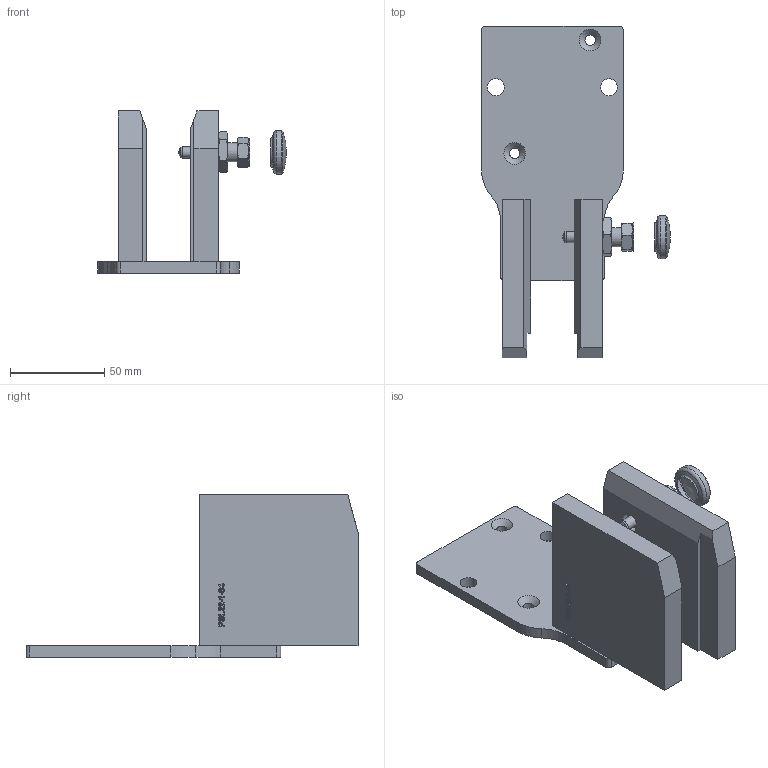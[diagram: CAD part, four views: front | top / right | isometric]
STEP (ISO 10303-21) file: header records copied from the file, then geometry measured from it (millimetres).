
FILE_DESCRIPTION(/* description */ (''),/* implementation_level */ '2;1');
FILE_NAME(/* name */ 'P:\Standard products\2. QDC Clamping Systems\10. PS - Parkstations\PSL22-1 (84)(09-12-20).stp',/* time_stamp */ '2020-12-09T15:08:32+01:00',/* author */ ('breep'),/* organization */ (''),/* preprocessor_version */ 'ST-DEVELOPER v17.2',/* originating_system */ 'Autodesk Inventor 2019',/* authorisation */ '');
FILE_SCHEMA (('AUTOMOTIVE_DESIGN { 1 0 10303 214 3 1 1 }'));
Length unit declared in the file: millimetre
Products named in the file (1): Part2
Bounding box: 100 x 176 x 86 mm (x, y, z)
Volume: 254749.2 mm3; surface area: 58510.9 mm2
Topology: 1 solids, 1 shells, 394 faces, 1056 edges, 710 vertices
Faces by surface type: plane 207, bspline 119, cone 36, cylinder 28, torus 3, sphere 1
Full cylindrical faces by diameter (mm): 5.5 x2, 6 x5, 6.5 x4, 9 x2, 10.1 x1, 10.376 x1, 12 x4, 23 x1
Entity records: 13249 total; most frequent: CARTESIAN_POINT 3776, ORIENTED_EDGE 2094, DIRECTION 1438, EDGE_CURVE 1047, VERTEX_POINT 702, LINE 608, VECTOR 608, EDGE_LOOP 449
